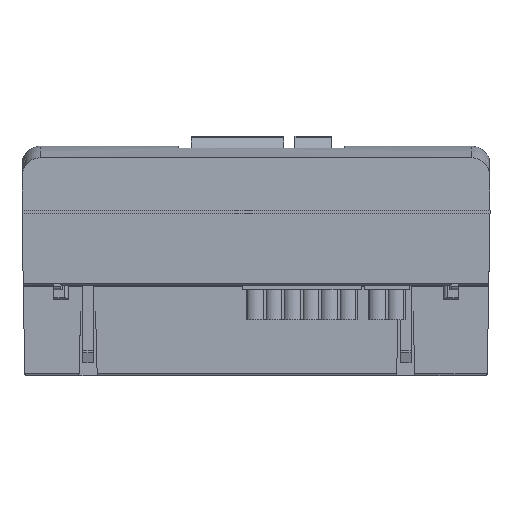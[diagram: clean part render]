
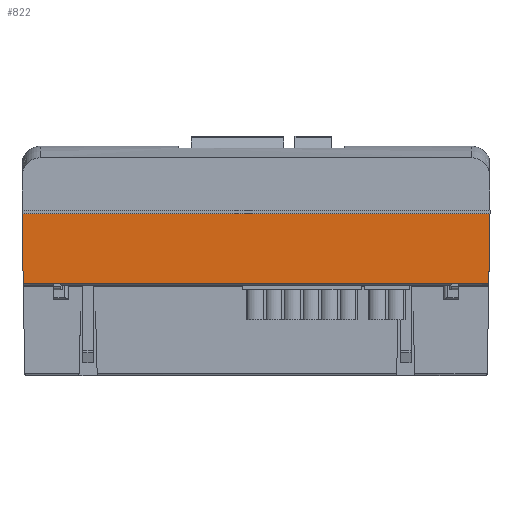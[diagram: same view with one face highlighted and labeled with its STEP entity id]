
A CAD part, left-side view. The second image highlights one B-rep face of the part: STEP entity #822.
In plain terms, the highlighted planar face has unit normal (-1, 0, -0.018).
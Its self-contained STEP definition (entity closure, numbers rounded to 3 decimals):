
#822 = ADVANCED_FACE( '', ( #2425 ), #2426, .T. );
#2425 = FACE_OUTER_BOUND( '', #4032, .T. );
#2426 = PLANE( '', #4033 );
#4032 = EDGE_LOOP( '', ( #10257, #10258, #10259, #10260 ) );
#4033 = AXIS2_PLACEMENT_3D( '', #10261, #10262, #10263 );
#10257 = ORIENTED_EDGE( '', *, *, #12297, .T. );
#10258 = ORIENTED_EDGE( '', *, *, #12317, .F. );
#10259 = ORIENTED_EDGE( '', *, *, #12308, .T. );
#10260 = ORIENTED_EDGE( '', *, *, #12316, .T. );
#10261 = CARTESIAN_POINT( '', ( -31.075, 0., 44.3 ) );
#10262 = DIRECTION( '', ( -1., 0., -0.017 ) );
#10263 = DIRECTION( '', ( -0.017, 0., 1. ) );
#12297 = EDGE_CURVE( '', #15631, #15632, #15633, .T. );
#12308 = EDGE_CURVE( '', #15647, #15645, #15648, .T. );
#12316 = EDGE_CURVE( '', #15645, #15631, #15657, .T. );
#12317 = EDGE_CURVE( '', #15647, #15632, #15658, .T. );
#15631 = VERTEX_POINT( '', #20629 );
#15632 = VERTEX_POINT( '', #20630 );
#15633 = LINE( '', #20631, #20632 );
#15645 = VERTEX_POINT( '', #20649 );
#15647 = VERTEX_POINT( '', #20652 );
#15648 = LINE( '', #20653, #20654 );
#15657 = LINE( '', #20669, #20670 );
#15658 = LINE( '', #20671, #20672 );
#20629 = CARTESIAN_POINT( '', ( -31.075, 128.2, 44.3 ) );
#20630 = CARTESIAN_POINT( '', ( -30.743, 127.868, 25.291 ) );
#20631 = CARTESIAN_POINT( '', ( -31.043, 128.168, 42.475 ) );
#20632 = VECTOR( '', #23584, 1. );
#20649 = CARTESIAN_POINT( '', ( -31.075, 0., 44.3 ) );
#20652 = CARTESIAN_POINT( '', ( -30.743, 0.332, 25.291 ) );
#20653 = CARTESIAN_POINT( '', ( -30.68, 0.395, 21.695 ) );
#20654 = VECTOR( '', #23603, 1. );
#20669 = CARTESIAN_POINT( '', ( -31.075, 0., 44.3 ) );
#20670 = VECTOR( '', #23613, 1. );
#20671 = CARTESIAN_POINT( '', ( -30.743, 0., 25.291 ) );
#20672 = VECTOR( '', #23614, 1. );
#23584 = DIRECTION( '', ( 0.017, -0.017, -1. ) );
#23603 = DIRECTION( '', ( -0.017, -0.017, 1. ) );
#23613 = DIRECTION( '', ( 0., 1., 0. ) );
#23614 = DIRECTION( '', ( 0., 1., 0. ) );
